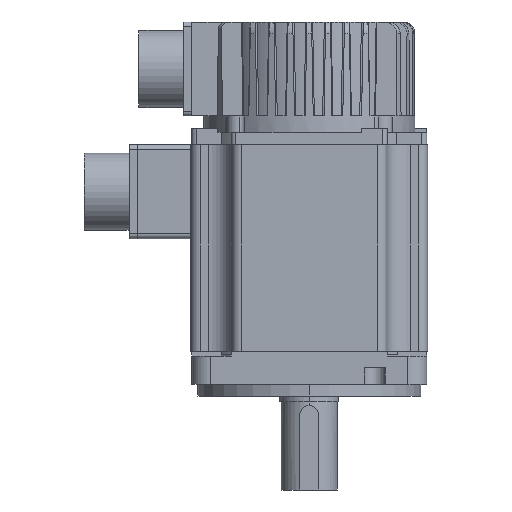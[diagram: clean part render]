
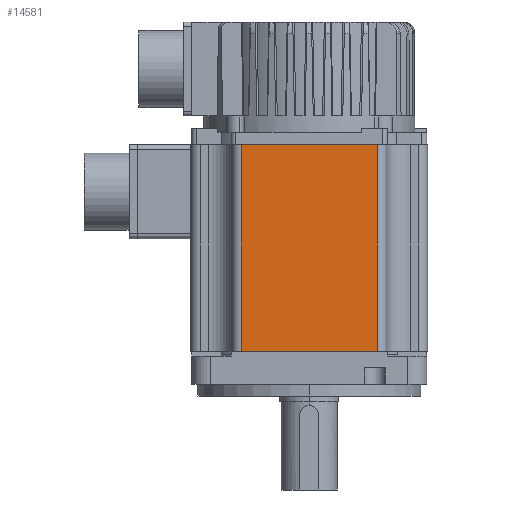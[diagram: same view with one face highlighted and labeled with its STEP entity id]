
A CAD part, left-side view. The second image highlights one B-rep face of the part: STEP entity #14581.
In plain terms, the highlighted planar face has unit normal (-1, 0, 0).
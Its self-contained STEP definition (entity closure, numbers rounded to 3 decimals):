
#729 = DIRECTION ( 'NONE',  ( 0., 0., -1. ) ) ;
#1349 = CARTESIAN_POINT ( 'NONE',  ( -50.4, -29., 110. ) ) ;
#2224 = LINE ( 'NONE', #25280, #27511 ) ;
#3021 = CARTESIAN_POINT ( 'NONE',  ( -50.4, 29., 110. ) ) ;
#3758 = CARTESIAN_POINT ( 'NONE',  ( -50.4, 29., 150. ) ) ;
#3847 = VERTEX_POINT ( 'NONE', #3021 ) ;
#3850 = VECTOR ( 'NONE', #5918, 1000. ) ;
#4617 = CARTESIAN_POINT ( 'NONE',  ( -50.4, 0., 22. ) ) ;
#4812 = VERTEX_POINT ( 'NONE', #1349 ) ;
#5918 = DIRECTION ( 'NONE',  ( 0., 0., -1. ) ) ;
#6921 = LINE ( 'NONE', #28757, #17100 ) ;
#7220 = DIRECTION ( 'NONE',  ( 0., 1., 0. ) ) ;
#7791 = EDGE_CURVE ( 'NONE', #3847, #12122, #10208, .T. ) ;
#9143 = VERTEX_POINT ( 'NONE', #12783 ) ;
#9233 = AXIS2_PLACEMENT_3D ( 'NONE', #25397, #16510, #7220 ) ;
#10017 = EDGE_CURVE ( 'NONE', #3847, #4812, #6921, .T. ) ;
#10103 = EDGE_LOOP ( 'NONE', ( #23675, #17918, #15867, #12789 ) ) ;
#10208 = LINE ( 'NONE', #3758, #3850 ) ;
#11407 = VECTOR ( 'NONE', #11602, 1000. ) ;
#11602 = DIRECTION ( 'NONE',  ( 0., 1., 0. ) ) ;
#12122 = VERTEX_POINT ( 'NONE', #16949 ) ;
#12783 = CARTESIAN_POINT ( 'NONE',  ( -50.4, -29., 22. ) ) ;
#12789 = ORIENTED_EDGE ( 'NONE', *, *, #7791, .T. ) ;
#13347 = EDGE_CURVE ( 'NONE', #9143, #12122, #13879, .T. ) ;
#13879 = LINE ( 'NONE', #4617, #11407 ) ;
#14581 = ADVANCED_FACE ( 'NONE', ( #19237 ), #20693, .F. ) ;
#15867 = ORIENTED_EDGE ( 'NONE', *, *, #10017, .F. ) ;
#16510 = DIRECTION ( 'NONE',  ( 1., 0., 0. ) ) ;
#16949 = CARTESIAN_POINT ( 'NONE',  ( -50.4, 29., 22. ) ) ;
#17100 = VECTOR ( 'NONE', #22257, 1000. ) ;
#17918 = ORIENTED_EDGE ( 'NONE', *, *, #23968, .F. ) ;
#19237 = FACE_OUTER_BOUND ( 'NONE', #10103, .T. ) ;
#20693 = PLANE ( 'NONE',  #9233 ) ;
#22257 = DIRECTION ( 'NONE',  ( 0., -1., 0. ) ) ;
#23675 = ORIENTED_EDGE ( 'NONE', *, *, #13347, .F. ) ;
#23968 = EDGE_CURVE ( 'NONE', #4812, #9143, #2224, .T. ) ;
#25280 = CARTESIAN_POINT ( 'NONE',  ( -50.4, -29., 150. ) ) ;
#25397 = CARTESIAN_POINT ( 'NONE',  ( -50.4, 0., 150. ) ) ;
#27511 = VECTOR ( 'NONE', #729, 1000. ) ;
#28757 = CARTESIAN_POINT ( 'NONE',  ( -50.4, 0., 110. ) ) ;
